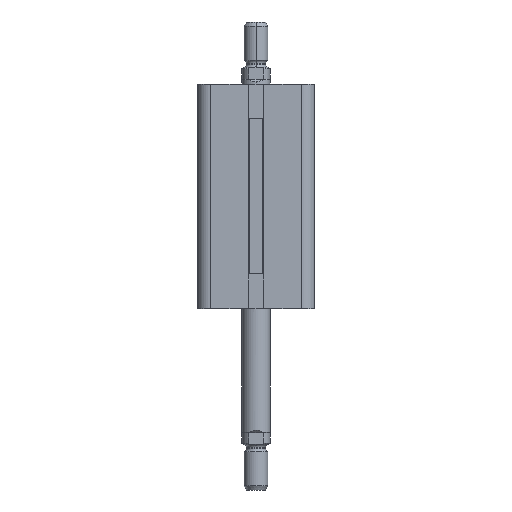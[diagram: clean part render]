
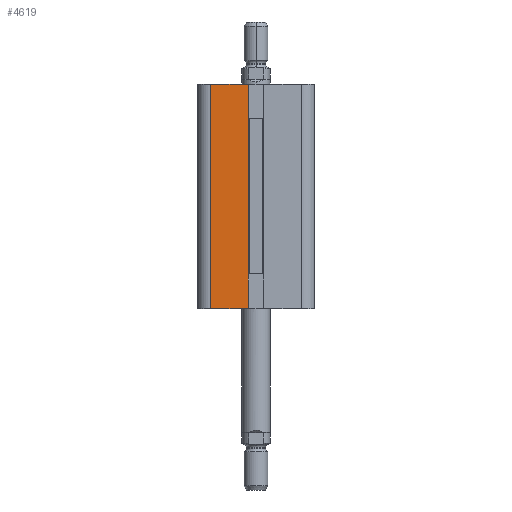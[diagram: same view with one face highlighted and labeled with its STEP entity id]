
A CAD part, front view. The second image highlights one B-rep face of the part: STEP entity #4619.
In plain terms, the highlighted planar face has unit normal (0, -1, 0).
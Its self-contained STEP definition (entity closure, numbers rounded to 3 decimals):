
#261 = EDGE_LOOP ( 'NONE', ( #9779, #9780, #9781, #9782, #9783, #9784, #9785, #9786 ) ) ;
#292 = VERTEX_POINT ( 'NONE', #577 ) ;
#577 = CARTESIAN_POINT ( 'NONE',  ( -19., -24.5, -14.5 ) ) ;
#930 = EDGE_CURVE ( 'NONE', #3168, #3167, #3343, .T. ) ;
#1911 = CARTESIAN_POINT ( 'NONE',  ( -24.5, -24.5, 79.5 ) ) ;
#1913 = DIRECTION ( 'NONE',  ( 1., 0., 0. ) ) ;
#2408 = CARTESIAN_POINT ( 'NONE',  ( -2.95, -24.5, 65. ) ) ;
#2409 = CARTESIAN_POINT ( 'NONE',  ( -2.95, -24.5, 0. ) ) ;
#2416 = CARTESIAN_POINT ( 'NONE',  ( -3.2, -24.5, 65. ) ) ;
#2417 = CARTESIAN_POINT ( 'NONE',  ( -3.2, -24.5, 0. ) ) ;
#3167 = VERTEX_POINT ( 'NONE', #11221 ) ;
#3168 = VERTEX_POINT ( 'NONE', #11222 ) ;
#3343 = LINE ( 'NONE', #1911, #3345 ) ;
#3345 = VECTOR ( 'NONE', #1913, 1000. ) ;
#4619 = ADVANCED_FACE ( 'NONE', ( #12355 ), #9355, .F. ) ;
#4809 = VERTEX_POINT ( 'NONE', #2408 ) ;
#4810 = VERTEX_POINT ( 'NONE', #2409 ) ;
#4817 = VERTEX_POINT ( 'NONE', #2416 ) ;
#4818 = VERTEX_POINT ( 'NONE', #2417 ) ;
#5449 = AXIS2_PLACEMENT_3D ( 'NONE', #9358, #9359, #9360 ) ;
#6251 = LINE ( 'NONE', #6770, #6253 ) ;
#6253 = VECTOR ( 'NONE', #6771, 1000. ) ;
#6770 = CARTESIAN_POINT ( 'NONE',  ( -3., -24.5, -14.5 ) ) ;
#6771 = DIRECTION ( 'NONE',  ( -1., 0., 0. ) ) ;
#7109 = CARTESIAN_POINT ( 'NONE',  ( -3.2, -24.5, -14.5 ) ) ;
#7532 = LINE ( 'NONE', #8436, #7537 ) ;
#7537 = VECTOR ( 'NONE', #8447, 1000. ) ;
#7662 = LINE ( 'NONE', #8715, #7671 ) ;
#7666 = LINE ( 'NONE', #8729, #7669 ) ;
#7669 = VECTOR ( 'NONE', #8732, 1000. ) ;
#7671 = VECTOR ( 'NONE', #8734, 1000. ) ;
#7899 = LINE ( 'NONE', #10492, #7901 ) ;
#7901 = VECTOR ( 'NONE', #10493, 1000. ) ;
#7909 = LINE ( 'NONE', #10510, #7911 ) ;
#7911 = VECTOR ( 'NONE', #10511, 1000. ) ;
#7962 = LINE ( 'NONE', #10609, #7965 ) ;
#7965 = VECTOR ( 'NONE', #10610, 1000. ) ;
#8436 = CARTESIAN_POINT ( 'NONE',  ( -3.2, -24.5, 134.996 ) ) ;
#8447 = DIRECTION ( 'NONE',  ( 0., 0., -1. ) ) ;
#8715 = CARTESIAN_POINT ( 'NONE',  ( -3.2, -24.5, 134.996 ) ) ;
#8729 = CARTESIAN_POINT ( 'NONE',  ( -19., -24.5, 65. ) ) ;
#8732 = DIRECTION ( 'NONE',  ( 0., 0., -1. ) ) ;
#8734 = DIRECTION ( 'NONE',  ( 0., 0., -1. ) ) ;
#9355 = PLANE ( 'NONE',  #5449 ) ;
#9358 = CARTESIAN_POINT ( 'NONE',  ( -24.5, -24.5, 65. ) ) ;
#9359 = DIRECTION ( 'NONE',  ( 0., 1., 0. ) ) ;
#9360 = DIRECTION ( 'NONE',  ( 0., 0., 1. ) ) ;
#9779 = ORIENTED_EDGE ( 'NONE', *, *, #13260, .T. ) ;
#9780 = ORIENTED_EDGE ( 'NONE', *, *, #11055, .F. ) ;
#9781 = ORIENTED_EDGE ( 'NONE', *, *, #13261, .F. ) ;
#9782 = ORIENTED_EDGE ( 'NONE', *, *, #13751, .T. ) ;
#9783 = ORIENTED_EDGE ( 'NONE', *, *, #13708, .T. ) ;
#9784 = ORIENTED_EDGE ( 'NONE', *, *, #13715, .F. ) ;
#9785 = ORIENTED_EDGE ( 'NONE', *, *, #13194, .F. ) ;
#9786 = ORIENTED_EDGE ( 'NONE', *, *, #930, .F. ) ;
#10492 = CARTESIAN_POINT ( 'NONE',  ( -2.95, -24.5, 65. ) ) ;
#10493 = DIRECTION ( 'NONE',  ( 0., 0., 1. ) ) ;
#10510 = CARTESIAN_POINT ( 'NONE',  ( -24.5, -24.5, 65. ) ) ;
#10511 = DIRECTION ( 'NONE',  ( 1., 0., 0. ) ) ;
#10609 = CARTESIAN_POINT ( 'NONE',  ( -24.5, -24.5, 0. ) ) ;
#10610 = DIRECTION ( 'NONE',  ( 1., 0., 0. ) ) ;
#11055 = EDGE_CURVE ( 'NONE', #12472, #292, #6251, .T. ) ;
#11221 = CARTESIAN_POINT ( 'NONE',  ( -3.2, -24.5, 79.5 ) ) ;
#11222 = CARTESIAN_POINT ( 'NONE',  ( -19., -24.5, 79.5 ) ) ;
#12355 = FACE_OUTER_BOUND ( 'NONE', #261, .T. ) ;
#12472 = VERTEX_POINT ( 'NONE', #7109 ) ;
#13194 = EDGE_CURVE ( 'NONE', #3167, #4817, #7532, .T. ) ;
#13260 = EDGE_CURVE ( 'NONE', #3168, #292, #7666, .T. ) ;
#13261 = EDGE_CURVE ( 'NONE', #4818, #12472, #7662, .T. ) ;
#13708 = EDGE_CURVE ( 'NONE', #4810, #4809, #7899, .T. ) ;
#13715 = EDGE_CURVE ( 'NONE', #4817, #4809, #7909, .T. ) ;
#13751 = EDGE_CURVE ( 'NONE', #4818, #4810, #7962, .T. ) ;
